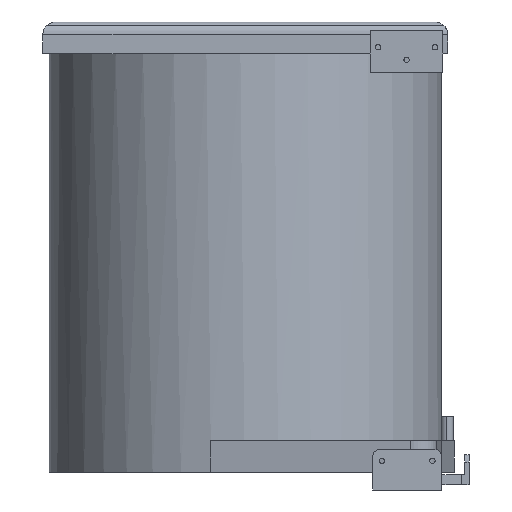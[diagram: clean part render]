
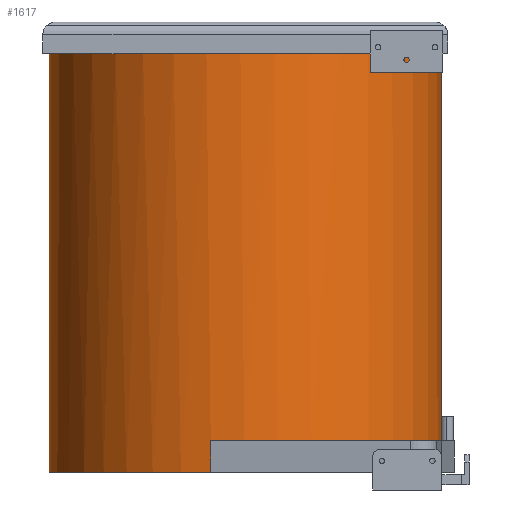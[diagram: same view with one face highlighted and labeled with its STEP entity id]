
A CAD part, left-side view. The second image highlights one B-rep face of the part: STEP entity #1617.
In plain terms, the highlighted cylindrical face has radius 155 mm (diameter 310 mm), a partial arc.
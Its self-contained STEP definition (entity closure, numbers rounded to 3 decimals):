
#1617=ADVANCED_FACE('',(#2881),#2882,.T.);
#2881=FACE_OUTER_BOUND('',#4650,.T.);
#2882=CYLINDRICAL_SURFACE('',#4651,155.0);
#4650=EDGE_LOOP('',(#6045,#6046,#6047,#6048,#6049,#6050));
#4651=AXIS2_PLACEMENT_3D('',#6051,#6052,#6053);
#6045=ORIENTED_EDGE('',*,*,#7578,.T.);
#6046=ORIENTED_EDGE('',*,*,#7797,.F.);
#6047=ORIENTED_EDGE('',*,*,#7582,.T.);
#6048=ORIENTED_EDGE('',*,*,#7724,.F.);
#6049=ORIENTED_EDGE('',*,*,#7787,.T.);
#6050=ORIENTED_EDGE('',*,*,#7798,.F.);
#6051=CARTESIAN_POINT('',(204.4,177.0,16.0));
#6052=DIRECTION('',(0.0,0.,1.0));
#6053=DIRECTION('',(-0.025,-1.,0.));
#7578=EDGE_CURVE('',#8714,#8715,#8716,.T.);
#7582=EDGE_CURVE('',#8723,#8721,#8724,.T.);
#7724=EDGE_CURVE('',#8960,#8721,#8962,.T.);
#7787=EDGE_CURVE('',#8960,#9044,#9046,.T.);
#7797=EDGE_CURVE('',#8723,#8715,#9057,.T.);
#7798=EDGE_CURVE('',#8714,#9044,#9058,.T.);
#8714=VERTEX_POINT('',#9557);
#8715=VERTEX_POINT('',#9558);
#8716=LINE('',#9559,#9560);
#8721=VERTEX_POINT('',#9566);
#8723=VERTEX_POINT('',#9568);
#8724=LINE('',#9569,#9570);
#8960=VERTEX_POINT('',#9868);
#8962=CIRCLE('',#9871,155.0);
#9044=VERTEX_POINT('',#9980);
#9046=LINE('',#9983,#9984);
#9057=CIRCLE('',#10000,155.0);
#9058=CIRCLE('',#10001,155.0);
#9557=CARTESIAN_POINT('',(200.572,22.047,39.0));
#9558=CARTESIAN_POINT('',(200.572,22.047,345.0));
#9559=CARTESIAN_POINT('',(200.572,22.047,16.0));
#9560=VECTOR('',#10499,1.0);
#9566=CARTESIAN_POINT('',(208.228,331.953,14.0));
#9568=CARTESIAN_POINT('',(208.228,331.953,345.0));
#9569=CARTESIAN_POINT('',(208.228,331.953,16.0));
#9570=VECTOR('',#10507,1.0);
#9868=CARTESIAN_POINT('',(51.828,204.328,14.0));
#9871=AXIS2_PLACEMENT_3D('',#10727,#10728,#10729);
#9980=CARTESIAN_POINT('',(51.828,204.328,39.0));
#9983=CARTESIAN_POINT('',(51.828,204.328,16.0));
#9984=VECTOR('',#10806,10.0);
#10000=AXIS2_PLACEMENT_3D('',#10815,#10816,#10817);
#10001=AXIS2_PLACEMENT_3D('',#10818,#10819,#10820);
#10499=DIRECTION('',(0.0,0.,1.0));
#10507=DIRECTION('',(-0.0,0.,-1.0));
#10727=CARTESIAN_POINT('',(204.4,177.0,14.0));
#10728=DIRECTION('',(0.,0.,-1.0));
#10729=DIRECTION('',(0.387,-0.922,0.));
#10806=DIRECTION('',(0.0,0.0,1.0));
#10815=CARTESIAN_POINT('',(204.4,177.0,345.0));
#10816=DIRECTION('',(0.,0.,1.0));
#10817=DIRECTION('',(-1.0,0.,0.));
#10818=CARTESIAN_POINT('',(204.4,177.0,39.0));
#10819=DIRECTION('',(0.,0.,-1.0));
#10820=DIRECTION('',(-1.0,0.,0.));
